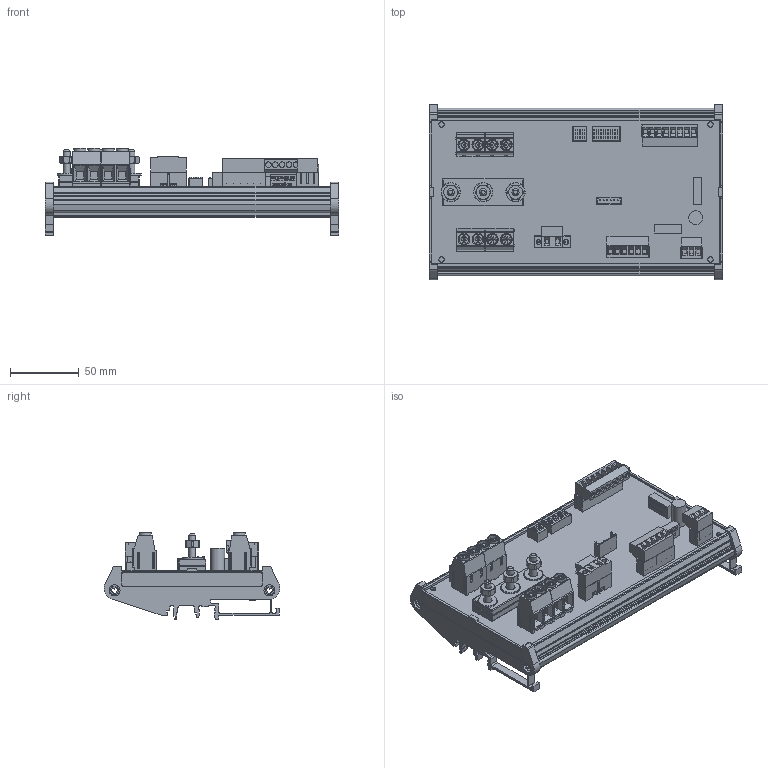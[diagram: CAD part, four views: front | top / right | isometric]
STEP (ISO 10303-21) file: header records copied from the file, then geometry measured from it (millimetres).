
FILE_DESCRIPTION(('FreeCAD Model'),'2;1');
FILE_NAME('C:/3D Files/Stringhe/ST0N/ST0N0825/ST0N0825.step', '2021-01-26T18:40:22',('Author'),(''), 'Open CASCADE STEP processor 7.2','FreeCAD','Unknown');
FILE_SCHEMA(('AUTOMOTIVE_DESIGN { 1 0 10303 214 1 1 1 1 }'));
Length unit declared in the file: millimetre
Products named in the file (33): ST0N0825; Mstb_3P_F; Mstb_6P_F; Mstb_3Pc_M; Mstb_6Pc_M; AmpModu_6P_M; DipSwitch8; DipSwitch4; Dado6MA003; Dado6MA004; Dado6MA005; Rondella007; Rondella008; Rondella009; CH_01-02; CH_03-04; CH_05-06; CH_07-08; CN3_M; CN3_F; IB2405LS-1W; ELNA_470_uF_35_V; VTBSE-6x031; VTBSE-6x032; VTBSE-6x033; Mstb_8P_F; Mstb_8Pc_M; IB2405LS-1W001; Barra_5.83_cm; Barra_5.83_cm001; Barra_5.83_cm002; Stampato_208,9_x_108; Profilo_213x128
Assembly tree (32 placements, depth 2):
  ST0N0825
    Mstb_3P_F
    Mstb_6P_F
    Mstb_3Pc_M
    Mstb_6Pc_M
    AmpModu_6P_M
    DipSwitch8
    DipSwitch4
    Dado6MA003
    Dado6MA004
    Dado6MA005
    Rondella007
    Rondella008
    Rondella009
    CH_01-02
    CH_03-04
    CH_05-06
    CH_07-08
    CN3_M
    CN3_F
    IB2405LS-1W
    ELNA_470_uF_35_V
    VTBSE-6x031
    VTBSE-6x032
    VTBSE-6x033
    Mstb_8P_F
    Mstb_8Pc_M
    IB2405LS-1W001
    Barra_5.83_cm
    Barra_5.83_cm001
    Barra_5.83_cm002
    Stampato_208,9_x_108
    Profilo_213x128
Bounding box: 213 x 127.59 x 63.19 mm (x, y, z)
Volume: 201755.4 mm3; surface area: 218417.2 mm2
Topology: 54 solids, 90 shells, 3310 faces, 13871 edges, 25362 vertices
Faces by surface type: plane 2444, cylinder 570, bspline 136, cone 75, torus 51, sphere 32, extrusion 2
Full cylindrical faces by diameter (mm): 0.5 x8, 0.75 x36, 1 x2, 1.5 x17, 1.6 x2, 1.8 x2, 2.05 x2, 2.5 x2, 3.3 x2, 3.5 x2, 3.8 x2, 4 x25, 4.3 x4, 4.917 x3, 5 x6, 6.6 x3, 7 x9, 7.2 x8, 7.5 x8, 7.9 x4, 8.66 x8, 9.202 x4, 10 x4, 14 x3
Entity records: 293503 total; most frequent: CARTESIAN_POINT 73187, DIRECTION 36126, VECTOR 23827, LINE 23825, ORIENTED_EDGE 17296, PCURVE 17296, DEFINITIONAL_REPRESENTATION 17296, EDGE_CURVE 8961
